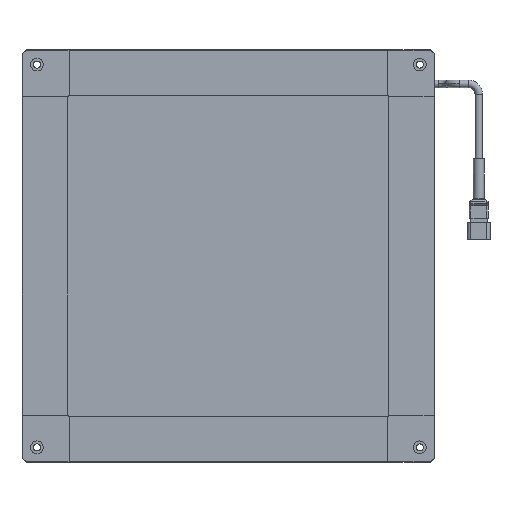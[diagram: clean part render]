
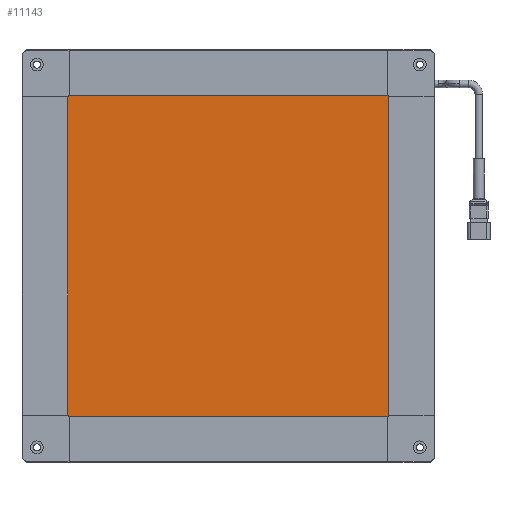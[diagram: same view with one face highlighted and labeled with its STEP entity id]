
A CAD part, top view. The second image highlights one B-rep face of the part: STEP entity #11143.
In plain terms, the highlighted planar face has unit normal (0, 0, 1).
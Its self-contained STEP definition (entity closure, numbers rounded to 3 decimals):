
#286 = EDGE_CURVE ( 'NONE', #3742, #16371, #9480, .T. ) ;
#431 = DIRECTION ( 'NONE',  ( 1., 0., 0. ) ) ;
#1237 = EDGE_LOOP ( 'NONE', ( #9521, #9698, #14588, #11712 ) ) ;
#1852 = CARTESIAN_POINT ( 'NONE',  ( 78., -78., 5.1 ) ) ;
#3742 = VERTEX_POINT ( 'NONE', #1852 ) ;
#4771 = DIRECTION ( 'NONE',  ( 0., -1., 0. ) ) ;
#4963 = CARTESIAN_POINT ( 'NONE',  ( 78., 78., 5.1 ) ) ;
#5054 = VECTOR ( 'NONE', #9424, 1000. ) ;
#5063 = AXIS2_PLACEMENT_3D ( 'NONE', #13837, #10675, #9255 ) ;
#6242 = LINE ( 'NONE', #13761, #13708 ) ;
#7987 = CARTESIAN_POINT ( 'NONE',  ( 78., 78., 5.1 ) ) ;
#9255 = DIRECTION ( 'NONE',  ( -1., 0., 0. ) ) ;
#9379 = EDGE_CURVE ( 'NONE', #13296, #13453, #13692, .T. ) ;
#9411 = CARTESIAN_POINT ( 'NONE',  ( -78., 78., 5.1 ) ) ;
#9424 = DIRECTION ( 'NONE',  ( 0., 1., 0. ) ) ;
#9480 = LINE ( 'NONE', #7987, #5054 ) ;
#9521 = ORIENTED_EDGE ( 'NONE', *, *, #9379, .T. ) ;
#9698 = ORIENTED_EDGE ( 'NONE', *, *, #11916, .T. ) ;
#9784 = CARTESIAN_POINT ( 'NONE',  ( 78., 78., 5.1 ) ) ;
#10675 = DIRECTION ( 'NONE',  ( 0., 0., -1. ) ) ;
#10857 = PLANE ( 'NONE',  #5063 ) ;
#11143 = ADVANCED_FACE ( 'NONE', ( #12087 ), #10857, .F. ) ;
#11712 = ORIENTED_EDGE ( 'NONE', *, *, #14775, .T. ) ;
#11916 = EDGE_CURVE ( 'NONE', #13453, #3742, #6242, .T. ) ;
#12087 = FACE_OUTER_BOUND ( 'NONE', #1237, .T. ) ;
#13296 = VERTEX_POINT ( 'NONE', #9411 ) ;
#13453 = VERTEX_POINT ( 'NONE', #15706 ) ;
#13692 = LINE ( 'NONE', #13716, #18374 ) ;
#13708 = VECTOR ( 'NONE', #431, 1000. ) ;
#13716 = CARTESIAN_POINT ( 'NONE',  ( -78., 78., 5.1 ) ) ;
#13761 = CARTESIAN_POINT ( 'NONE',  ( 78., -78., 5.1 ) ) ;
#13837 = CARTESIAN_POINT ( 'NONE',  ( -78., -78., 5.1 ) ) ;
#14464 = VECTOR ( 'NONE', #16719, 1000. ) ;
#14588 = ORIENTED_EDGE ( 'NONE', *, *, #286, .T. ) ;
#14775 = EDGE_CURVE ( 'NONE', #16371, #13296, #16809, .T. ) ;
#15706 = CARTESIAN_POINT ( 'NONE',  ( -78., -78., 5.1 ) ) ;
#16371 = VERTEX_POINT ( 'NONE', #9784 ) ;
#16719 = DIRECTION ( 'NONE',  ( -1., 0., 0. ) ) ;
#16809 = LINE ( 'NONE', #4963, #14464 ) ;
#18374 = VECTOR ( 'NONE', #4771, 1000. ) ;
